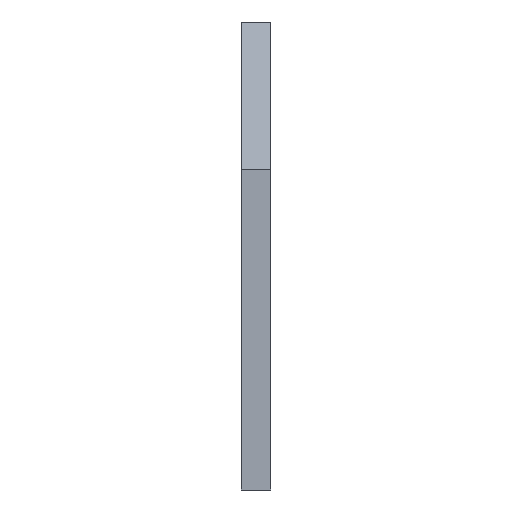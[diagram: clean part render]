
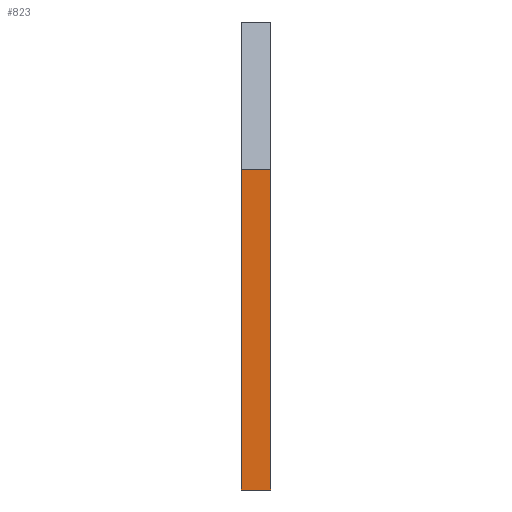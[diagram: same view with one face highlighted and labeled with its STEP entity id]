
A CAD part, left-side view. The second image highlights one B-rep face of the part: STEP entity #823.
In plain terms, the highlighted planar face has unit normal (-1, 0, 0).
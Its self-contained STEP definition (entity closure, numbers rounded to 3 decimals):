
#60 = PLANE ( 'NONE',  #1479 ) ;
#227 = CARTESIAN_POINT ( 'NONE',  ( -95., 6., 95. ) ) ;
#229 = DIRECTION ( 'NONE',  ( 1., 0., 0. ) ) ;
#230 = DIRECTION ( 'NONE',  ( 0., 0., -1. ) ) ;
#342 = CARTESIAN_POINT ( 'NONE',  ( -95., 6., 35. ) ) ;
#344 = CARTESIAN_POINT ( 'NONE',  ( -95., -6., -95. ) ) ;
#671 = EDGE_CURVE ( 'NONE', #910, #894, #1818, .T. ) ;
#672 = EDGE_CURVE ( 'NONE', #894, #898, #1820, .T. ) ;
#673 = EDGE_CURVE ( 'NONE', #898, #892, #1814, .T. ) ;
#674 = EDGE_CURVE ( 'NONE', #910, #892, #1812, .T. ) ;
#693 = CARTESIAN_POINT ( 'NONE',  ( -95., -6., 35. ) ) ;
#705 = CARTESIAN_POINT ( 'NONE',  ( -95., 6., -95. ) ) ;
#799 = CARTESIAN_POINT ( 'NONE',  ( -95., -6., 95. ) ) ;
#808 = CARTESIAN_POINT ( 'NONE',  ( -95., 6., -95. ) ) ;
#809 = DIRECTION ( 'NONE',  ( 0., -1., 0. ) ) ;
#810 = DIRECTION ( 'NONE',  ( 0., 0., 1. ) ) ;
#811 = CARTESIAN_POINT ( 'NONE',  ( -95., 6., 35. ) ) ;
#812 = DIRECTION ( 'NONE',  ( 0., 1., 0. ) ) ;
#813 = CARTESIAN_POINT ( 'NONE',  ( -95., 6., 95. ) ) ;
#814 = DIRECTION ( 'NONE',  ( 0., 0., 1. ) ) ;
#823 = ADVANCED_FACE ( 'NONE', ( #1729 ), #60, .F. ) ;
#892 = VERTEX_POINT ( 'NONE', #342 ) ;
#894 = VERTEX_POINT ( 'NONE', #344 ) ;
#898 = VERTEX_POINT ( 'NONE', #693 ) ;
#910 = VERTEX_POINT ( 'NONE', #705 ) ;
#954 = EDGE_LOOP ( 'NONE', ( #1186, #1187, #1259, #1189 ) ) ;
#1186 = ORIENTED_EDGE ( 'NONE', *, *, #672, .T. ) ;
#1187 = ORIENTED_EDGE ( 'NONE', *, *, #673, .T. ) ;
#1189 = ORIENTED_EDGE ( 'NONE', *, *, #671, .T. ) ;
#1259 = ORIENTED_EDGE ( 'NONE', *, *, #674, .F. ) ;
#1479 = AXIS2_PLACEMENT_3D ( 'NONE', #227, #229, #230 ) ;
#1729 = FACE_OUTER_BOUND ( 'NONE', #954, .T. ) ;
#1809 = VECTOR ( 'NONE', #814, 1000. ) ;
#1811 = VECTOR ( 'NONE', #812, 1000. ) ;
#1812 = LINE ( 'NONE', #813, #1809 ) ;
#1813 = VECTOR ( 'NONE', #810, 1000. ) ;
#1814 = LINE ( 'NONE', #811, #1811 ) ;
#1815 = VECTOR ( 'NONE', #809, 1000. ) ;
#1818 = LINE ( 'NONE', #808, #1815 ) ;
#1820 = LINE ( 'NONE', #799, #1813 ) ;
